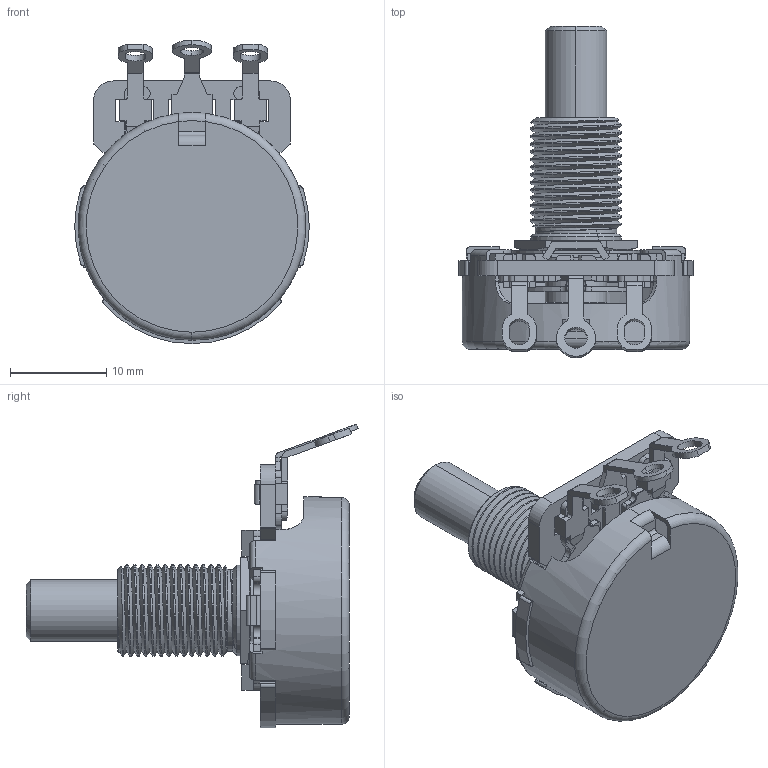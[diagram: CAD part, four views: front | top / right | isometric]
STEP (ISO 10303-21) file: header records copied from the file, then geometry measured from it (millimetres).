
FILE_DESCRIPTION (( 'STEP AP214' ), '1' );
FILE_NAME ('450GT47R504A2S.STEP', '2019-05-27T01:42:14', ( '' ), ( '' ), 'SwSTEP 2.0', 'SolidWorks 2019', '' );
FILE_SCHEMA (( 'AUTOMOTIVE_DESIGN' ));
Length unit declared in the file: millimetre
Products named in the file (10): 45C-2Z-no lug; 450D-17 for T450AEDF; 4S60507; 450 element; T450AEDF(For 104G); 450GT47R504A2S; 450B-8; P45Q(stamp for 450GT36K504B2S)_Flat Bottom_45Q54 withFenderTradeMark_NewDetentSetting_07102012; 450F-23 for T450AEDF; 450A-104G
Assembly tree (10 placements, depth 3):
  450GT47R504A2S
    P45Q(stamp for 450GT36K504B2S)_Flat Bottom_45Q54 withFenderTradeMark_NewDetentSetting_07102012
    T450AEDF(For 104G)
      450A-104G
      450D-17 for T450AEDF
      450 element
      450F-23 for T450AEDF  x2
    45C-2Z-no lug
    450B-8
    4S60507
Bounding box: 24.33 x 34.43 x 31.47 mm (x, y, z)
Volume: 3053.9 mm3; surface area: 6912.8 mm2
Topology: 9 solids, 9 shells, 669 faces, 1874 edges, 1223 vertices
Faces by surface type: plane 387, cylinder 243, cone 19, torus 18, bspline 2
Entity records: 21939 total; most frequent: CARTESIAN_POINT 5612, ORIENTED_EDGE 3382, DIRECTION 3256, EDGE_CURVE 1691, VERTEX_POINT 1106, AXIS2_PLACEMENT_3D 1086, LINE 1084, VECTOR 1084
